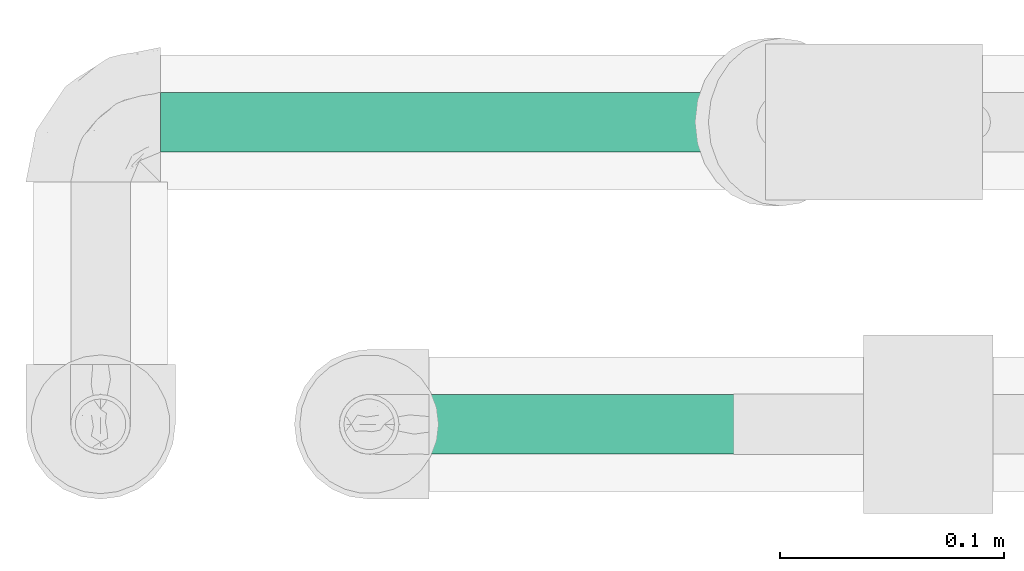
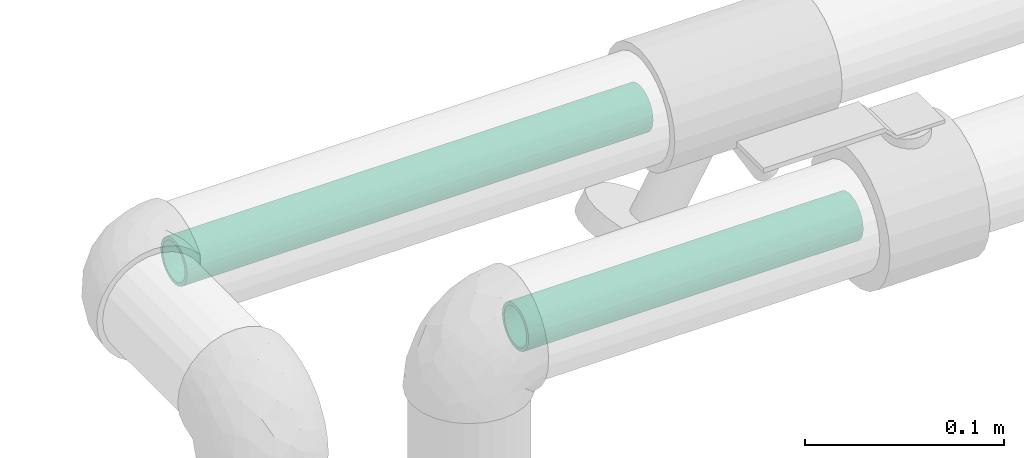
# One storey, part 58 of 108: 2 flow segments.
"""IFC2X3 building model written with IfcOpenShell, lengths in millimetres."""

import ifcopenshell
import ifcopenshell.guid

model = None  # the IFC model being written
_history = None  # IfcOwnerHistory: only IFC2X3 demands one
_inside = {}  # id of a spatial element -> (the spatial element, [elements in it])
_under = {}  # id of a project, library or spatial element -> (it, [spatial elements below it])
_declared = {}  # id of a project -> (the project, [libraries it declares])
_typed = {}  # id of a type object -> (the type object, [elements of that type])
_made_of = {}  # id of a material, layer set ... -> (it, [elements and type objects made of it])


def new_model(schema):
    """Start an empty IFC model of exactly this schema.

    Asked for "IFC4X3", IfcOpenShell would pick the latest addendum, in which some entities
    have other attributes; the version numbers below select the first issue.
    IFC2X3 requires an IfcOwnerHistory on every rooted entity: one is made here for all.
    """
    global model, _history
    if schema == "IFC4X3":
        model = ifcopenshell.file(schema_version=(4, 3, 0, 0))
    else:
        model = ifcopenshell.file(schema=schema)
    _inside.clear()
    _under.clear()
    _declared.clear()
    _typed.clear()
    _made_of.clear()
    _history = None
    if model.schema == "IFC2X3":
        org = make("IfcOrganization", Name="unknown")
        user = make(
            "IfcPersonAndOrganization",
            ThePerson=make("IfcPerson", FamilyName="unknown"),
            TheOrganization=org,
        )
        app = make(
            "IfcApplication",
            ApplicationDeveloper=org,
            Version="unknown",
            ApplicationFullName="unknown",
            ApplicationIdentifier="unknown",
        )
        _history = make(
            "IfcOwnerHistory",
            OwningUser=user,
            OwningApplication=app,
            ChangeAction="ADDED",
            CreationDate=0,
        )
    return model


def make(cls, **values):
    """One entity of the class cls with the attributes given. An attribute that is None is left unset."""
    return model.create_entity(
        cls, **{name: value for name, value in values.items() if value is not None}
    )


def entity(cls, *values):
    """Any entity or typed value of the class cls, its attributes in the order of the schema. None: left unset."""
    e = model.create_entity(cls)
    for i, value in enumerate(values):
        if value is not None:
            e[i] = value
    return e


def rooted(cls, **values):
    """An entity with a GlobalId (a new one), such as an element, a storey or a relation."""
    return make(cls, GlobalId=ifcopenshell.guid.new(), OwnerHistory=_history, **values)


def si_unit(unit_type, name, prefix=None):
    """IfcSIUnit, for example si_unit("LENGTHUNIT", "METRE", prefix="MILLI")."""
    return make("IfcSIUnit", UnitType=unit_type, Prefix=prefix, Name=name)


def converted_unit(unit_type, name, factor, base, dimensions=None, offset=None):
    """IfcConversionBasedUnit, such as the inch: factor (a typed value) times the base unit."""
    return make(
        "IfcConversionBasedUnit"
        if offset is None
        else "IfcConversionBasedUnitWithOffset",
        ConversionOffset=offset,
        Dimensions=None
        if dimensions is None
        else entity("IfcDimensionalExponents", *dimensions),
        UnitType=unit_type,
        Name=name,
        ConversionFactor=make(
            "IfcMeasureWithUnit", ValueComponent=factor, UnitComponent=base
        ),
    )


def derived_unit(unit_type, elements):
    """IfcDerivedUnit: a product of units, each with its exponent."""
    return make(
        "IfcDerivedUnit",
        Elements=[
            make("IfcDerivedUnitElement", Unit=unit, Exponent=power)
            for unit, power in elements
        ],
        UnitType=unit_type,
    )


def assignment(units):
    """IfcUnitAssignment: the units of a project."""
    return None if units is None else make("IfcUnitAssignment", Units=units)


def point(xyz):
    """IfcCartesianPoint."""
    return None if xyz is None else make("IfcCartesianPoint", Coordinates=xyz)


def direction(xyz):
    """IfcDirection."""
    return None if xyz is None else make("IfcDirection", DirectionRatios=xyz)


def frame(location, z_axis=None, x_axis=None):
    """IfcAxis2Placement3D, a coordinate frame: its origin and axes. An axis left out is left unset."""
    return make(
        "IfcAxis2Placement3D",
        Location=point(location),
        Axis=direction(z_axis),
        RefDirection=direction(x_axis),
    )


def frame_2d(location, x_axis=None):
    """IfcAxis2Placement2D, a coordinate frame in the plane: its origin and x axis."""
    return make(
        "IfcAxis2Placement2D", Location=point(location), RefDirection=direction(x_axis)
    )


def origin_with_axes():
    """The frame at (0, 0, 0) with the z axis (0, 0, 1) and the x axis (1, 0, 0) written out."""
    return frame((0.0, 0.0, 0.0), z_axis=(0.0, 0.0, 1.0), x_axis=(1.0, 0.0, 0.0))


def origin_2d_with_axis():
    """The frame at (0, 0) in the plane with the x axis (1, 0) written out."""
    return frame_2d((0.0, 0.0), x_axis=(1.0, 0.0))


def place(relative_to, where):
    """IfcLocalPlacement: puts the frame where relative to a parent placement (None: the world)."""
    return make(
        "IfcLocalPlacement", PlacementRelTo=relative_to, RelativePlacement=where
    )


def context(
    kind, dimensions, precision=None, world=None, true_north=None, identifier=None
):
    """IfcGeometricRepresentationContext, for example the 3D "Model" context."""
    return make(
        "IfcGeometricRepresentationContext",
        ContextIdentifier=identifier,
        ContextType=kind,
        CoordinateSpaceDimension=dimensions,
        Precision=precision,
        WorldCoordinateSystem=world,
        TrueNorth=true_north,
    )


def subcontext(parent, identifier, kind, view, scale=None):
    """IfcGeometricRepresentationSubContext, for example "Body" below "Model"."""
    return make(
        "IfcGeometricRepresentationSubContext",
        ContextIdentifier=identifier,
        ContextType=kind,
        ParentContext=parent,
        TargetScale=scale,
        TargetView=view,
    )


def project(units=None, contexts=None):
    """IfcProject with its units and contexts."""
    return rooted(
        "IfcProject",
        Name="project",
        RepresentationContexts=contexts,
        UnitsInContext=assignment(units),
    )


def spatial(cls, under=None, at=None, **own):
    """A site, building, storey or space (cls), placed at a placement, below another one or the project."""
    s = rooted(cls, ObjectPlacement=at, **own)
    if under is not None:
        _under.setdefault(under.id(), (under, []))[1].append(s)
    return s


def profile(cls, at=None, kind="AREA", **sizes):
    """A parametric profile (cls). Its sizes go by their IFC names, for example OverallWidth=200.0."""
    return make(cls, ProfileType=kind, Position=at, **sizes)


def hollow_circle(**sizes):
    """IfcCircleHollowProfileDef."""
    return profile("IfcCircleHollowProfileDef", **sizes)


def extrude(swept, where, along, depth):
    """IfcExtrudedAreaSolid: the profile swept, set in the frame where, extruded along a direction by depth."""
    return make(
        "IfcExtrudedAreaSolid",
        SweptArea=swept,
        Position=where,
        ExtrudedDirection=direction(along),
        Depth=depth,
    )


def shape(context_of_items, identifier, shape_type, items):
    """IfcShapeRepresentation: the items that make up one representation, for example the "Body"."""
    return make(
        "IfcShapeRepresentation",
        ContextOfItems=context_of_items,
        RepresentationIdentifier=identifier,
        RepresentationType=shape_type,
        Items=items,
    )


def source(mapping_origin, context_of_items, identifier, shape_type, items):
    """IfcRepresentationMap: a shape defined once, which mapped items show again and again."""
    return make(
        "IfcRepresentationMap",
        MappingOrigin=mapping_origin,
        MappedRepresentation=shape(context_of_items, identifier, shape_type, items),
    )


def transform(
    local_origin,
    x_axis=None,
    y_axis=None,
    z_axis=None,
    scale=None,
    scale2=None,
    scale3=None,
    uniform=True,
):
    """IfcCartesianTransformationOperator3D, or its non-uniform kind. x_axis, y_axis, z_axis: its Axis1, 2, 3."""
    if uniform:
        return make(
            "IfcCartesianTransformationOperator3D",
            Axis1=direction(x_axis),
            Axis2=direction(y_axis),
            LocalOrigin=point(local_origin),
            Scale=scale,
            Axis3=direction(z_axis),
        )
    return make(
        "IfcCartesianTransformationOperator3DnonUniform",
        Axis1=direction(x_axis),
        Axis2=direction(y_axis),
        LocalOrigin=point(local_origin),
        Scale=scale,
        Axis3=direction(z_axis),
        Scale2=scale2,
        Scale3=scale3,
    )


def mapped(mapping_source, mapping_target):
    """IfcMappedItem: shows the shape of a source again, moved by a transform."""
    return make(
        "IfcMappedItem", MappingSource=mapping_source, MappingTarget=mapping_target
    )


def made_of(thing, what):
    """Note that an element or type object is made of a material, layer set ...; save() writes the relation."""
    if what is not None:
        _made_of.setdefault(what.id(), (what, []))[1].append(thing)
    return thing


def type_object(cls, material=None, **own):
    """A type object (cls), such as IfcWallType, which elements share."""
    return made_of(rooted(cls, **own), material)


def element(
    cls,
    number,
    at=None,
    inside=None,
    cuts=None,
    type_object=None,
    material=None,
    context=None,
    identifier="Body",
    shape_type=None,
    held_by="IfcProductDefinitionShape",
    body=None,
    shapes=None,
    **own,
):
    """One element of the class cls, such as IfcWall. Its Tag is "e" and its number.

    at: its placement. inside: the storey or other place that contains it. cuts: it is an
    opening in that element (IfcRelVoidsElement). A single representation is given by context,
    identifier, shape_type and body (its items); several are given by shapes. held_by: the class
    of the entity that holds the representations. save() writes the other relations.
    """
    e = rooted(cls, Tag="e%d" % number, ObjectPlacement=at, **own)
    if body is not None:
        shapes = [shape(context, identifier, shape_type, body)]
    if shapes is not None:
        e.Representation = make(held_by, Representations=shapes)
    if inside is not None:
        _inside.setdefault(inside.id(), (inside, []))[1].append(e)
    if cuts is not None:
        rooted(
            "IfcRelVoidsElement", RelatingBuildingElement=cuts, RelatedOpeningElement=e
        )
    if type_object is not None:
        _typed.setdefault(type_object.id(), (type_object, []))[1].append(e)
    return made_of(e, material)


def aggregate(whole, parts):
    """IfcRelAggregates: a whole, such as a stair, and the parts it consists of."""
    return rooted("IfcRelAggregates", RelatingObject=whole, RelatedObjects=parts)


def save(model, path):
    """Write the relations noted so far, then the file.

    IfcRelAggregates (storeys below a building ...), IfcRelContainedInSpatialStructure (elements
    in a storey), IfcRelDefinesByType, IfcRelAssociatesMaterial and IfcRelDeclares: one each for
    every whole, place, type object, material and project.
    """
    for whole, parts in _under.values():
        aggregate(whole, parts)
    for where, things in _inside.values():
        rooted(
            "IfcRelContainedInSpatialStructure",
            RelatedElements=things,
            RelatingStructure=where,
        )
    for kind, things in _typed.values():
        rooted("IfcRelDefinesByType", RelatedObjects=things, RelatingType=kind)
    for what, things in _made_of.values():
        rooted("IfcRelAssociatesMaterial", RelatedObjects=things, RelatingMaterial=what)
    for by, libraries in _declared.values():
        rooted("IfcRelDeclares", RelatingContext=by, RelatedDefinitions=libraries)
    model.write(path)


model = new_model("IFC2X3")

# Units and contexts
model_context = context("Model", 3, precision=0.01, world=frame((0.0, 4.29681676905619e-09, 0.0)), true_north=direction((4.01073788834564e-13, 1.0)))
plan_context = context("Plan", 3, precision=0.01, world=frame((0.0, 4.29681676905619e-09, 0.0)), true_north=direction((4.01073788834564e-13, 1.0)))
body_context = subcontext(model_context, "Body", "Model", "MODEL_VIEW")
ifc_project = project(units=[converted_unit("PLANEANGLEUNIT", "DEGREE", entity("IfcPositiveLengthMeasure", 0.0174532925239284), si_unit("PLANEANGLEUNIT", "RADIAN"), dimensions=[0, 0, 0, 0, 0, 0, 0]), si_unit("AREAUNIT", "SQUARE_METRE"), si_unit("LENGTHUNIT", "METRE", prefix="MILLI"), si_unit("MASSUNIT", "GRAM", prefix="KILO"), si_unit("POWERUNIT", "WATT"), si_unit("PRESSUREUNIT", "PASCAL", prefix="KILO"), si_unit("FORCEUNIT", "NEWTON", prefix="KILO"), si_unit("ELECTRICVOLTAGEUNIT", "VOLT"), si_unit("ELECTRICCURRENTUNIT", "AMPERE"), si_unit("THERMODYNAMICTEMPERATUREUNIT", "DEGREE_CELSIUS"), si_unit("TIMEUNIT", "SECOND"), si_unit("VOLUMEUNIT", "CUBIC_METRE"), derived_unit("LINEARVELOCITYUNIT", [(si_unit("LENGTHUNIT", "METRE"), 1), (si_unit("TIMEUNIT", "SECOND"), -1)]), derived_unit("VOLUMETRICFLOWRATEUNIT", [(si_unit("VOLUMEUNIT", "CUBIC_METRE"), 1), (si_unit("TIMEUNIT", "SECOND"), -1)]), derived_unit("THERMALTRANSMITTANCEUNIT", [(si_unit("POWERUNIT", "WATT"), 1), (si_unit("THERMODYNAMICTEMPERATUREUNIT", "KELVIN"), -1), (si_unit("AREAUNIT", "SQUARE_METRE"), -1)]), derived_unit("SOUNDPRESSUREUNIT", [(si_unit("PRESSUREUNIT", "PASCAL"), 1)])], contexts=[model_context, plan_context])

# Site, building, storey
site_placement = place(None, frame((0.0, -4.29681676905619e-09, 0.0), z_axis=(0.0, 0.0, 1.0), x_axis=(1.0, 0.0, 0.0)))
site = spatial("IfcSite", under=ifc_project, at=site_placement, CompositionType="ELEMENT")
building_placement = place(site_placement, frame((0.0, 4.29681676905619e-09, 0.0), z_axis=(0.0, 0.0, 1.0), x_axis=(1.0, 0.0, 0.0)))
building = spatial("IfcBuilding", under=site, at=building_placement, Name="mc-building", CompositionType="ELEMENT")
storey_placement = place(building_placement, frame((0.0, 0.0, 210200.0), z_axis=(0.0, 0.0, 1.0), x_axis=(1.0, 0.0, 0.0)))
storey = spatial("IfcBuildingStorey", under=building, at=storey_placement, Name="Nivå F - 0,7 m", CompositionType="ELEMENT", Elevation=210200.0)

# Flow segments
pipe_segment_type = type_object("IfcPipeSegmentType", Name="Stålrør normaltykke", PredefinedType="RIGIDSEGMENT")
shared_shape_1 = source(origin_with_axes(), body_context, "Body", "SweptSolid", [
    extrude(hollow_circle(Radius=13.3, WallThickness=2.0, at=origin_2d_with_axis()), frame((0.0, 0.0, 0.0), z_axis=(1.0, 0.0, 0.0), x_axis=(0.0, 1.0, 0.0)), (0.0, 0.0, 1.0), 194.0),
])
flow_segment_1_placement = place(storey_placement, frame((343695.78104, 460323.91341, 2545.47687000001), z_axis=(0.0, 0.0, 1.0), x_axis=(1.0, 0.0, 0.0)))
element("IfcFlowSegment", 1, at=flow_segment_1_placement, inside=storey, type_object=pipe_segment_type, Name="Stålrør normaltykke", context=body_context, shape_type="MappedRepresentation", body=[
    mapped(shared_shape_1, transform((0.0, 0.0, 0.0), scale=1.0)),
])
shared_shape_2 = source(origin_with_axes(), body_context, "Body", "SweptSolid", [
    extrude(hollow_circle(Radius=13.3, WallThickness=2.0, at=origin_2d_with_axis()), frame((0.0, 0.0, 0.0), z_axis=(1.0, 0.0, 0.0), x_axis=(0.0, 1.0, 0.0)), (0.0, 0.0, 1.0), 270.2),
])
flow_segment_2_placement = place(storey_placement, frame((343575.78104, 460458.91341, 2545.5), z_axis=(0.0, 0.0, 1.0), x_axis=(1.0, 0.0, 0.0)))
element("IfcFlowSegment", 2, at=flow_segment_2_placement, inside=storey, type_object=pipe_segment_type, Name="Stålrør normaltykke", context=body_context, shape_type="MappedRepresentation", body=[
    mapped(shared_shape_2, transform((0.0, 0.0, 0.0), scale=1.0)),
])

save(model, "model.ifc")
